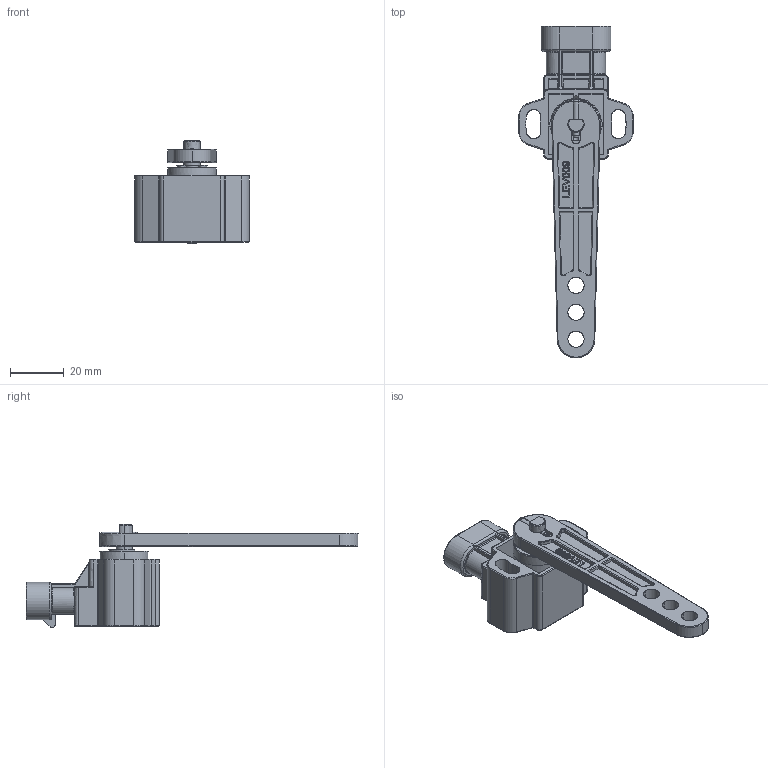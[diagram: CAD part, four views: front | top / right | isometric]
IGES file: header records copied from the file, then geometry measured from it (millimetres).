
Start section: SolidWorks IGES file using analytic representation for surfaces
Global section: file name: \\srv4gefran\dir-cat\Disegni Catalogo\Mobile\GR3P\GR3P 32\3D\Solidworks 2024\GR3PA S3E2MS xxx xxxx D0.IGS; native system: SolidWorks 2024; preprocessor: SolidWorks 2024; author: Loda-w1; date: 241219.154046; units: millimetre
Bounding box: 42.5 x 123.5 x 38.47 mm (x, y, z)
Surface area: 16874.4 mm2 (no closed solid volume)
Topology: 0 solids, 0 shells, 758 faces, 7046 edges, 7019 vertices
Faces by surface type: bspline 420, revolution 338
